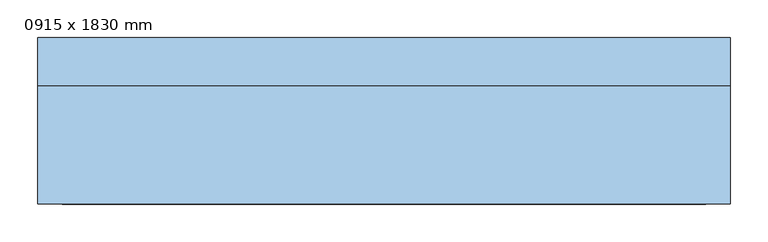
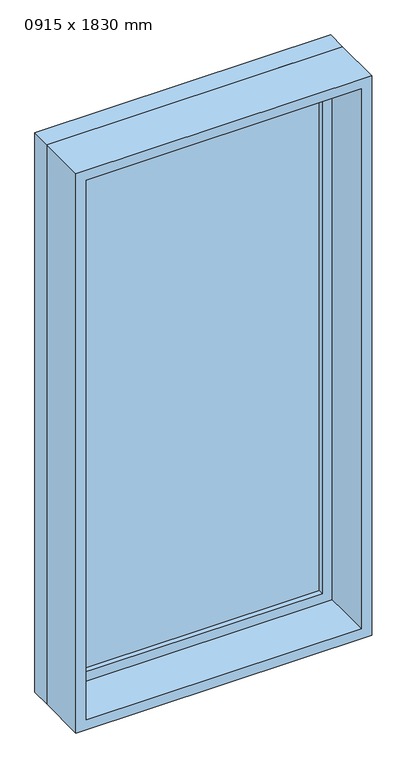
"""IFC4 building model written with IfcOpenShell, lengths in millimetres: window geometry, M_固定 : 0915 x 1830 mm."""

import ifcopenshell
import ifcopenshell.guid

model = None  # the IFC model being written
_history = None  # IfcOwnerHistory: only IFC2X3 demands one
_inside = {}  # id of a spatial element -> (the spatial element, [elements in it])
_under = {}  # id of a project, library or spatial element -> (it, [spatial elements below it])
_declared = {}  # id of a project -> (the project, [libraries it declares])
_typed = {}  # id of a type object -> (the type object, [elements of that type])
_made_of = {}  # id of a material, layer set ... -> (it, [elements and type objects made of it])


def new_model(schema):
    """Start an empty IFC model of exactly this schema.

    Asked for "IFC4X3", IfcOpenShell would pick the latest addendum, in which some entities
    have other attributes; the version numbers below select the first issue.
    IFC2X3 requires an IfcOwnerHistory on every rooted entity: one is made here for all.
    """
    global model, _history
    if schema == "IFC4X3":
        model = ifcopenshell.file(schema_version=(4, 3, 0, 0))
    else:
        model = ifcopenshell.file(schema=schema)
    _inside.clear()
    _under.clear()
    _declared.clear()
    _typed.clear()
    _made_of.clear()
    _history = None
    if model.schema == "IFC2X3":
        org = make("IfcOrganization", Name="unknown")
        user = make(
            "IfcPersonAndOrganization",
            ThePerson=make("IfcPerson", FamilyName="unknown"),
            TheOrganization=org,
        )
        app = make(
            "IfcApplication",
            ApplicationDeveloper=org,
            Version="unknown",
            ApplicationFullName="unknown",
            ApplicationIdentifier="unknown",
        )
        _history = make(
            "IfcOwnerHistory",
            OwningUser=user,
            OwningApplication=app,
            ChangeAction="ADDED",
            CreationDate=0,
        )
    return model


def make(cls, **values):
    """One entity of the class cls with the attributes given. An attribute that is None is left unset."""
    return model.create_entity(
        cls, **{name: value for name, value in values.items() if value is not None}
    )


def rooted(cls, **values):
    """An entity with a GlobalId (a new one), such as an element, a storey or a relation."""
    return make(cls, GlobalId=ifcopenshell.guid.new(), OwnerHistory=_history, **values)


def si_unit(unit_type, name, prefix=None):
    """IfcSIUnit, for example si_unit("LENGTHUNIT", "METRE", prefix="MILLI")."""
    return make("IfcSIUnit", UnitType=unit_type, Prefix=prefix, Name=name)


def assignment(units):
    """IfcUnitAssignment: the units of a project."""
    return None if units is None else make("IfcUnitAssignment", Units=units)


def point(xyz):
    """IfcCartesianPoint."""
    return None if xyz is None else make("IfcCartesianPoint", Coordinates=xyz)


def direction(xyz):
    """IfcDirection."""
    return None if xyz is None else make("IfcDirection", DirectionRatios=xyz)


def frame(location, z_axis=None, x_axis=None):
    """IfcAxis2Placement3D, a coordinate frame: its origin and axes. An axis left out is left unset."""
    return make(
        "IfcAxis2Placement3D",
        Location=point(location),
        Axis=direction(z_axis),
        RefDirection=direction(x_axis),
    )


def origin():
    """The frame at (0, 0, 0) with its axes left unset."""
    return frame((0.0, 0.0, 0.0))


def place(relative_to, where):
    """IfcLocalPlacement: puts the frame where relative to a parent placement (None: the world)."""
    return make(
        "IfcLocalPlacement", PlacementRelTo=relative_to, RelativePlacement=where
    )


def context(
    kind, dimensions, precision=None, world=None, true_north=None, identifier=None
):
    """IfcGeometricRepresentationContext, for example the 3D "Model" context."""
    return make(
        "IfcGeometricRepresentationContext",
        ContextIdentifier=identifier,
        ContextType=kind,
        CoordinateSpaceDimension=dimensions,
        Precision=precision,
        WorldCoordinateSystem=world,
        TrueNorth=true_north,
    )


def project(units=None, contexts=None):
    """IfcProject with its units and contexts."""
    return rooted(
        "IfcProject",
        Name="project",
        RepresentationContexts=contexts,
        UnitsInContext=assignment(units),
    )


def spatial(cls, under=None, at=None, **own):
    """A site, building, storey or space (cls), placed at a placement, below another one or the project."""
    s = rooted(cls, ObjectPlacement=at, **own)
    if under is not None:
        _under.setdefault(under.id(), (under, []))[1].append(s)
    return s


def polyline(points):
    """IfcPolyline through the points."""
    return make("IfcPolyline", Points=[point(p) for p in points])


def outline(outer, holes=None, kind="AREA"):
    """IfcArbitraryClosedProfileDef: a profile drawn as a closed curve; with holes, ...WithVoids."""
    if holes is None:
        return make("IfcArbitraryClosedProfileDef", ProfileType=kind, OuterCurve=outer)
    return make(
        "IfcArbitraryProfileDefWithVoids",
        ProfileType=kind,
        OuterCurve=outer,
        InnerCurves=holes,
    )


def extrude(swept, where, along, depth):
    """IfcExtrudedAreaSolid: the profile swept, set in the frame where, extruded along a direction by depth."""
    return make(
        "IfcExtrudedAreaSolid",
        SweptArea=swept,
        Position=where,
        ExtrudedDirection=direction(along),
        Depth=depth,
    )


def shape(context_of_items, identifier, shape_type, items):
    """IfcShapeRepresentation: the items that make up one representation, for example the "Body"."""
    return make(
        "IfcShapeRepresentation",
        ContextOfItems=context_of_items,
        RepresentationIdentifier=identifier,
        RepresentationType=shape_type,
        Items=items,
    )


def source(mapping_origin, context_of_items, identifier, shape_type, items):
    """IfcRepresentationMap: a shape defined once, which mapped items show again and again."""
    return make(
        "IfcRepresentationMap",
        MappingOrigin=mapping_origin,
        MappedRepresentation=shape(context_of_items, identifier, shape_type, items),
    )


def transform(
    local_origin,
    x_axis=None,
    y_axis=None,
    z_axis=None,
    scale=None,
    scale2=None,
    scale3=None,
    uniform=True,
):
    """IfcCartesianTransformationOperator3D, or its non-uniform kind. x_axis, y_axis, z_axis: its Axis1, 2, 3."""
    if uniform:
        return make(
            "IfcCartesianTransformationOperator3D",
            Axis1=direction(x_axis),
            Axis2=direction(y_axis),
            LocalOrigin=point(local_origin),
            Scale=scale,
            Axis3=direction(z_axis),
        )
    return make(
        "IfcCartesianTransformationOperator3DnonUniform",
        Axis1=direction(x_axis),
        Axis2=direction(y_axis),
        LocalOrigin=point(local_origin),
        Scale=scale,
        Axis3=direction(z_axis),
        Scale2=scale2,
        Scale3=scale3,
    )


def mapped(mapping_source, mapping_target):
    """IfcMappedItem: shows the shape of a source again, moved by a transform."""
    return make(
        "IfcMappedItem", MappingSource=mapping_source, MappingTarget=mapping_target
    )


def made_of(thing, what):
    """Note that an element or type object is made of a material, layer set ...; save() writes the relation."""
    if what is not None:
        _made_of.setdefault(what.id(), (what, []))[1].append(thing)
    return thing


def element(
    cls,
    number,
    at=None,
    inside=None,
    cuts=None,
    type_object=None,
    material=None,
    context=None,
    identifier="Body",
    shape_type=None,
    held_by="IfcProductDefinitionShape",
    body=None,
    shapes=None,
    **own,
):
    """One element of the class cls, such as IfcWall. Its Tag is "e" and its number.

    at: its placement. inside: the storey or other place that contains it. cuts: it is an
    opening in that element (IfcRelVoidsElement). A single representation is given by context,
    identifier, shape_type and body (its items); several are given by shapes. held_by: the class
    of the entity that holds the representations. save() writes the other relations.
    """
    e = rooted(cls, Tag="e%d" % number, ObjectPlacement=at, **own)
    if body is not None:
        shapes = [shape(context, identifier, shape_type, body)]
    if shapes is not None:
        e.Representation = make(held_by, Representations=shapes)
    if inside is not None:
        _inside.setdefault(inside.id(), (inside, []))[1].append(e)
    if cuts is not None:
        rooted(
            "IfcRelVoidsElement", RelatingBuildingElement=cuts, RelatedOpeningElement=e
        )
    if type_object is not None:
        _typed.setdefault(type_object.id(), (type_object, []))[1].append(e)
    return made_of(e, material)


def aggregate(whole, parts):
    """IfcRelAggregates: a whole, such as a stair, and the parts it consists of."""
    return rooted("IfcRelAggregates", RelatingObject=whole, RelatedObjects=parts)


def save(model, path):
    """Write the relations noted so far, then the file.

    IfcRelAggregates (storeys below a building ...), IfcRelContainedInSpatialStructure (elements
    in a storey), IfcRelDefinesByType, IfcRelAssociatesMaterial and IfcRelDeclares: one each for
    every whole, place, type object, material and project.
    """
    for whole, parts in _under.values():
        aggregate(whole, parts)
    for where, things in _inside.values():
        rooted(
            "IfcRelContainedInSpatialStructure",
            RelatedElements=things,
            RelatingStructure=where,
        )
    for kind, things in _typed.values():
        rooted("IfcRelDefinesByType", RelatedObjects=things, RelatingType=kind)
    for what, things in _made_of.values():
        rooted("IfcRelAssociatesMaterial", RelatedObjects=things, RelatingMaterial=what)
    for by, libraries in _declared.values():
        rooted("IfcRelDeclares", RelatingContext=by, RelatedDefinitions=libraries)
    model.write(path)


def window_0915_x_1830_mm_9461f444(model_context):
    return source(origin(), model_context, "Body", "SweptSolid", [
        extrude(outline(polyline([(-394.5, 88.0649596), (394.5, 88.0649596), (394.5, 76.0649596), (-394.5, 76.0649596), (-394.5, 88.0649596)])), frame((0.0, 0.0, 368.0), z_axis=(0.0, 0.0, 1.0), x_axis=(1.0, 0.0, 0.0)), (0.0, 0.0, 1.0), 1704.0),
        extrude(outline(polyline([(2116.0, -438.5), (324.0, -438.5), (324.0, 438.5), (2116.0, 438.5), (2116.0, -438.5)]), holes=[polyline([(2072.0, -394.5), (2072.0, 394.5), (368.0, 394.5), (368.0, -394.5), (2072.0, -394.5)])]), frame((0.0, 60.0649596, 0.0), z_axis=(0.0, 1.0, 0.0), x_axis=(0.0, 0.0, 1.0)), (0.0, 0.0, 1.0), 44.0),
        extrude(outline(polyline([(2135.0, -457.5), (305.0, -457.5), (305.0, 457.5), (2135.0, 457.5), (2135.0, -457.5)]), holes=[polyline([(2116.0, -438.5), (2116.0, 438.5), (324.0, 438.5), (324.0, -438.5), (2116.0, -438.5)])]), frame((0.0, 60.0649596, 0.0), z_axis=(0.0, 1.0, 0.0), x_axis=(0.0, 0.0, 1.0)), (0.0, 0.0, 1.0), 63.0),
        extrude(outline(polyline([(2135.0, -457.5), (305.0, -457.5), (305.0, 457.5), (2135.0, 457.5), (2135.0, -457.5)]), holes=[polyline([(2103.0, -425.5), (2103.0, 425.5), (337.0, 425.5), (337.0, -425.5), (2103.0, -425.5)])]), frame((0.0, -97.0649596, 0.0), z_axis=(0.0, 1.0, 0.0), x_axis=(0.0, 0.0, 1.0)), (0.0, 0.0, 1.0), 157.1299192),
    ])


if __name__ == "__main__":
    model = new_model("IFC4")
    model_context = context("Model", 3, world=origin())
    ifc_project = project(units=[si_unit("LENGTHUNIT", "METRE", prefix="MILLI")], contexts=[model_context])
    site = spatial("IfcSite", under=ifc_project)
    building = spatial("IfcBuilding", under=site)
    placement = place(None, origin())
    window_0915_x_1830_mm_shape = window_0915_x_1830_mm_9461f444(model_context)
    element("IfcWindow", 1, ObjectType="M_固定 : 0915 x 1830 mm", at=placement, inside=building, context=model_context, shape_type="MappedRepresentation", body=[
        mapped(window_0915_x_1830_mm_shape, transform((0.0, 0.0, 0.0), x_axis=(1.0, 0.0, 0.0), y_axis=(0.0, 1.0, 0.0), z_axis=(0.0, 0.0, 1.0))),
    ])
    save(model, "model.ifc")
